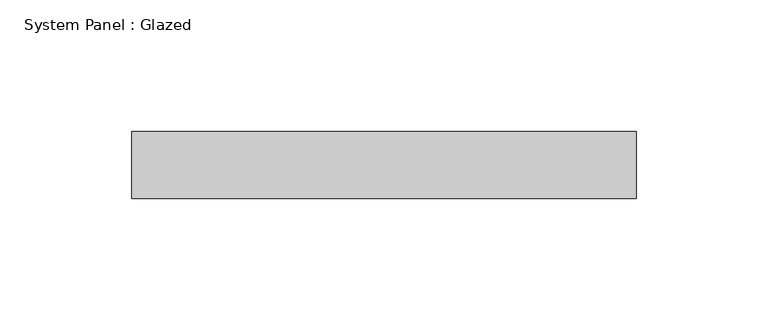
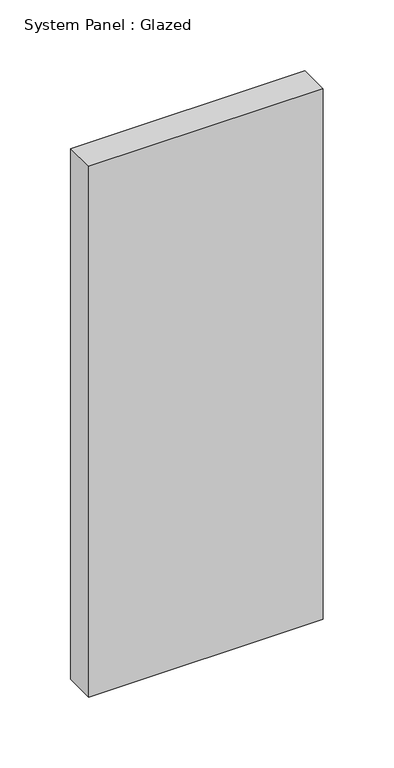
"""IFC4 building model written with IfcOpenShell, lengths in millimetres: plate geometry, System Panel : Glazed."""

from ifc_helpers import new_model, si_unit, origin, origin_with_axes, place, context, project, spatial, polyline, outline, extrude, source, transform, mapped, element, save


def system_panel_glazed_d2b05c01(model_context):
    return source(origin(), model_context, "Body", "SweptSolid", [
        extrude(outline(polyline([(95.5183901, -44.45), (-95.5183901, -44.45), (-95.5183901, -19.05), (95.5183901, -19.05), (95.5183901, -44.45)])), origin_with_axes(), (0.0, 0.0, 1.0), 457.2),
    ])


if __name__ == "__main__":
    model = new_model("IFC4")
    model_context = context("Model", 3, world=origin())
    ifc_project = project(units=[si_unit("LENGTHUNIT", "METRE", prefix="MILLI")], contexts=[model_context])
    site = spatial("IfcSite", under=ifc_project)
    building = spatial("IfcBuilding", under=site)
    placement = place(None, origin())
    system_panel_glazed_shape = system_panel_glazed_d2b05c01(model_context)
    element("IfcPlate", 1, ObjectType="System Panel : Glazed", at=placement, inside=building, context=model_context, shape_type="MappedRepresentation", body=[
        mapped(system_panel_glazed_shape, transform((0.0, 0.0, 0.0), x_axis=(1.0, 0.0, 0.0), y_axis=(0.0, 1.0, 0.0), z_axis=(0.0, 0.0, 1.0))),
    ])
    save(model, "model.ifc")
